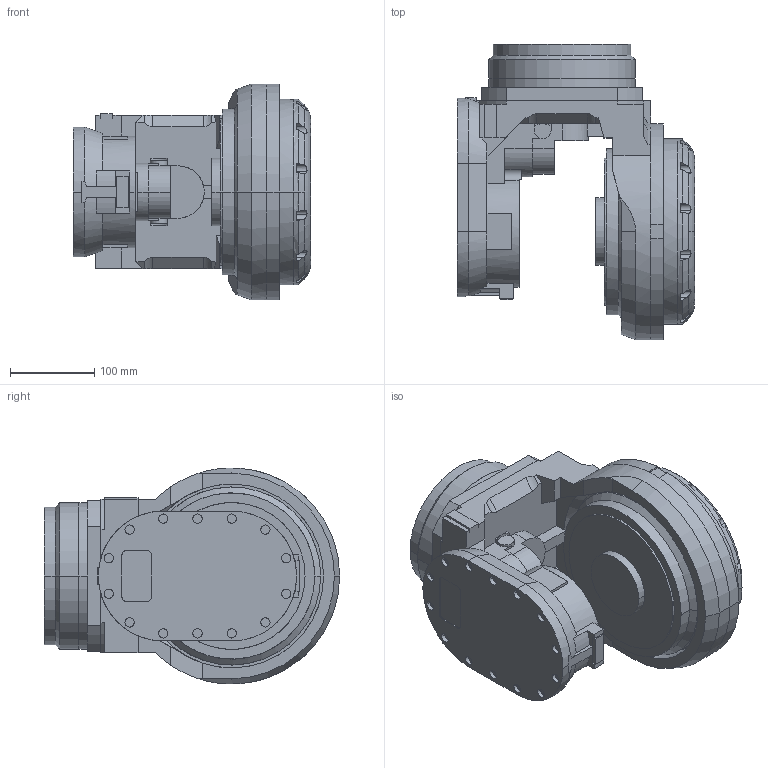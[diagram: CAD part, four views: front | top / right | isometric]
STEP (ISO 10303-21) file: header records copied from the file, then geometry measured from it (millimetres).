
FILE_DESCRIPTION(('CATIA V5 STEP Exchange'),'2;1');
FILE_NAME('Z:\ROBOT\CATIA06\products\SRA\SRA240L-01\Assy\FTP\catia\SRA240L-01_J5.stp','2023-04-03T10:18:12+00:00',('none'),('none'),'CATIA Version 5-6 Release 2016 SP3','CATIA V5 STEP AP203','none');
FILE_SCHEMA(('CONFIG_CONTROL_DESIGN'));
Length unit declared in the file: millimetre
Products named in the file (1): SRA240L-01_J5
Bounding box: 281 x 350 x 256 mm (x, y, z)
Volume: 8514312.8 mm3; surface area: 464897.9 mm2
Topology: 1 solids, 1 shells, 364 faces, 1086 edges, 750 vertices
Faces by surface type: plane 209, cylinder 124, cone 28, torus 2, bspline 1
Entity records: 12943 total; most frequent: CARTESIAN_POINT 3428, ORIENTED_EDGE 2172, DIRECTION 1614, EDGE_CURVE 1086, VERTEX_POINT 750, AXIS2_PLACEMENT_3D 698, VECTOR 554, LINE 554
